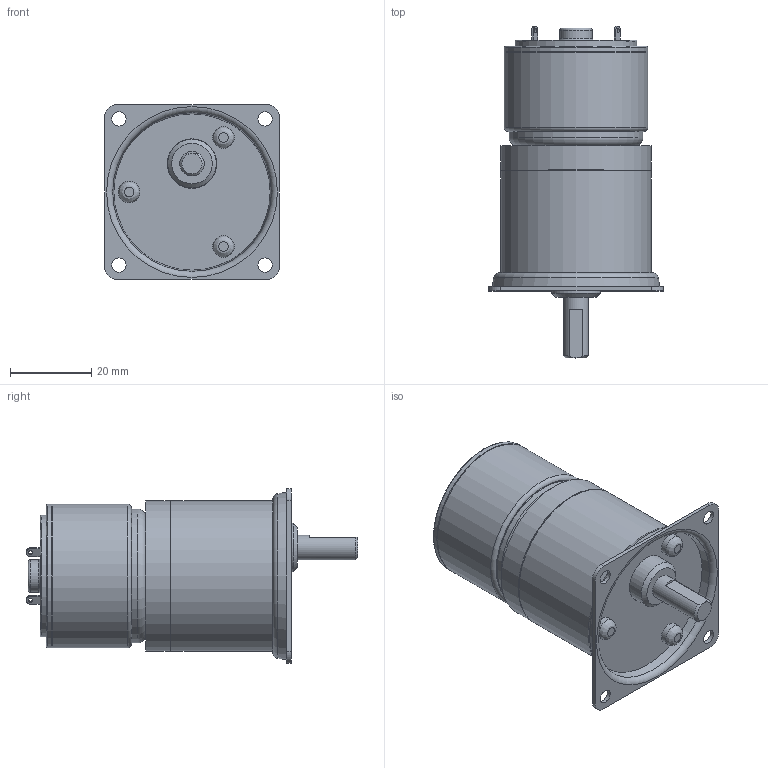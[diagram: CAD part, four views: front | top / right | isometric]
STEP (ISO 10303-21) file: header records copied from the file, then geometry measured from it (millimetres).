
FILE_DESCRIPTION((''),'2;1');
FILE_NAME('C:\Documents and Settings\SSEGAWA\デスクトップ\TP-3526E-PHM-5.STP','2013-07-09T16:31:45',('SSEGAWA'),(''),'Autodesk Inventor 2010','Autodesk Inventor 2010','');
FILE_SCHEMA(('CONFIG_CONTROL_DESIGN'));
Length unit declared in the file: millimetre
Products named in the file (5): tp_3526e_phm_5; phm_5; hm_5; □43; tp_3526e
Assembly tree (4 placements, depth 3):
  tp_3526e_phm_5
    phm_5
      hm_5
      □43
    tp_3526e
Bounding box: 43 x 81.8 x 43 mm (x, y, z)
Volume: 61606.6 mm3; surface area: 15822.8 mm2
Topology: 3 solids, 3 shells, 106 faces, 230 edges, 151 vertices
Faces by surface type: plane 39, cylinder 30, bspline 25, torus 7, cone 5
Full cylindrical faces by diameter (mm): 1.1 x1, 2 x1, 2.4 x1, 5 x1, 5.3 x3, 6 x1, 8 x1, 10 x1, 12 x1, 12.2 x1, 30 x1, 33 x1, 35 x1, 35.4 x2, 36.6 x1, 37 x2
Entity records: 3078 total; most frequent: CARTESIAN_POINT 983, DIRECTION 433, ORIENTED_EDGE 300, EDGE_LOOP 197, AXIS2_PLACEMENT_3D 195, EDGE_CURVE 150, VERTEX_POINT 127, FACE_OUTER_BOUND 106
